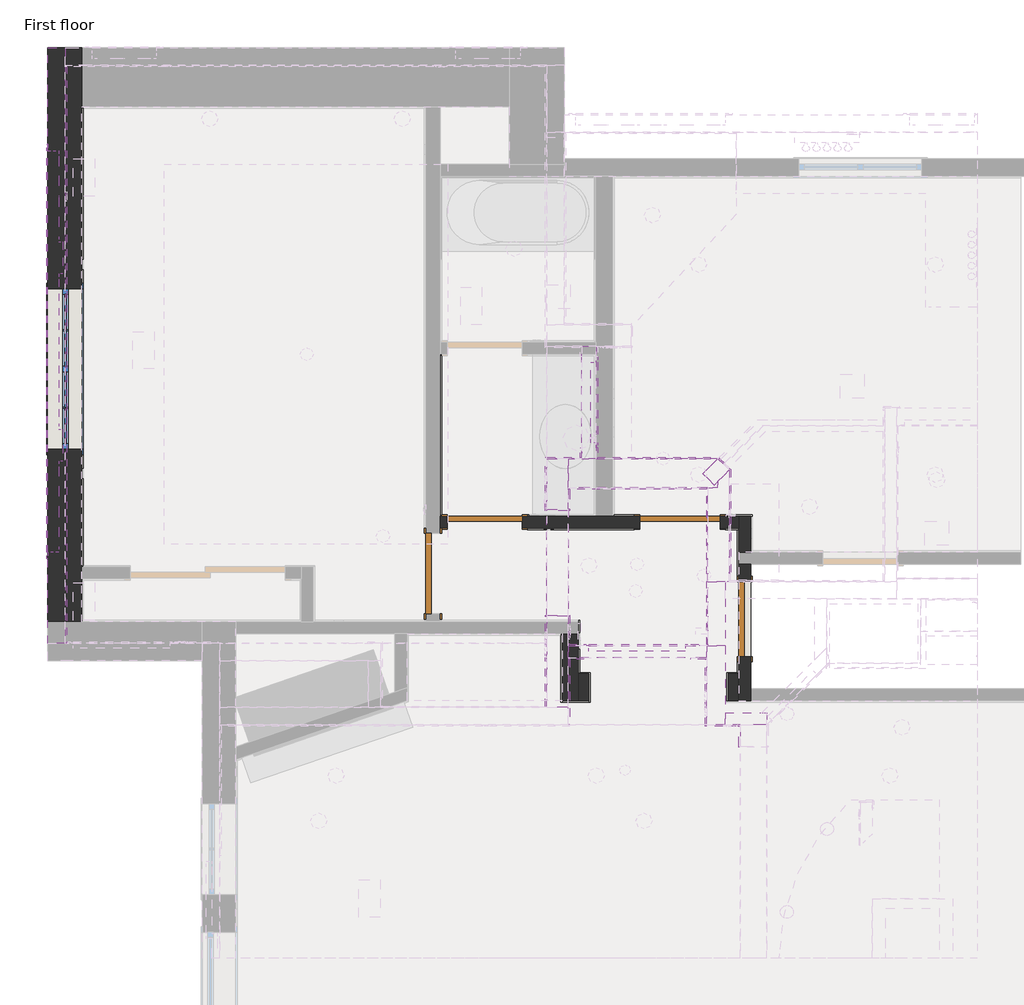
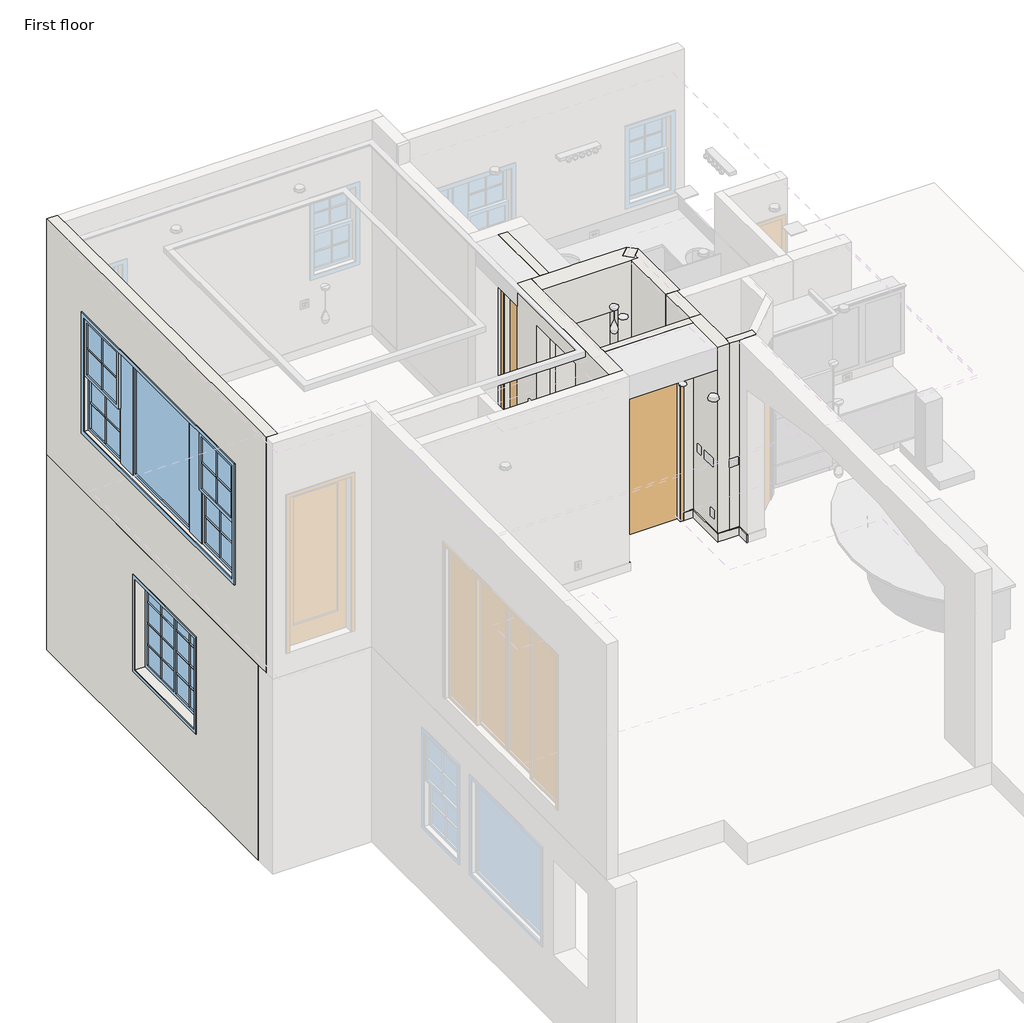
# One storey, part 2 of 14: 56 walls, 6 doors, 2 windows.
"""IFC4 building model written with IfcOpenShell, lengths in millimetres."""

from ifc_helpers import new_model, si_unit, frame, origin, origin_with_axes, place, context, project, spatial, polyline, outline, extrude, faceted_brep, transform, mapped, element, save
from components import door_ed5eb43b, door_212f846a, door_c0065fe1, door_7242d4bd, door_72c844fb, window_cb41b9cf, window_30bd35c0

model = new_model("IFC4")

# Units and contexts
model_context = context("Model", 3, world=origin())
ifc_project = project(units=[si_unit("LENGTHUNIT", "METRE", prefix="MILLI")], contexts=[model_context])

# Site, building, storey
site = spatial("IfcSite", under=ifc_project)
building = spatial("IfcBuilding", under=site)
storey = spatial("IfcBuildingStorey", under=building, Name="First floor", Elevation=0.0)

# Doors
placement = place(None, origin())
door_shape = door_ed5eb43b(model_context)
element("IfcDoor", 1, ObjectType="Door_1 : 2'-4\" X 8'-2\"", at=placement, inside=storey, context=model_context, shape_type="MappedRepresentation", body=[
    mapped(door_shape, transform((-44.45, 9855.2, 0.0), x_axis=(0.0, -1.0, 0.0), y_axis=(1.0, 0.0, 0.0), z_axis=(0.0, 0.0, 1.0))),
])
element("IfcDoor", 2, ObjectType="Door_1 : 2'-4\" X 8'-2\"", at=placement, inside=storey, context=model_context, shape_type="MappedRepresentation", body=[
    mapped(door_shape, transform((-2514.6, 10775.95, 0.0), x_axis=(-1.0, 0.0, 0.0), y_axis=(0.0, -1.0, 0.0), z_axis=(0.0, 0.0, 1.0))),
])
door_2_shape = door_212f846a(model_context)
element("IfcDoor", 3, ObjectType="Door_1 : 2'-6\" X 8'-0\"", at=placement, inside=storey, context=model_context, shape_type="MappedRepresentation", body=[
    mapped(door_2_shape, transform((-1524.0, 11912.4947939, 3251.2), x_axis=(0.0, -1.0, 0.0), y_axis=(1.0, 0.0, 0.0), z_axis=(0.0, 0.0, 1.0))),
])
door_3_shape = door_c0065fe1(model_context)
element("IfcDoor", 4, ObjectType="Door_1 : 2'-6\" X 8'-2\"", at=placement, inside=storey, context=model_context, shape_type="MappedRepresentation", body=[
    mapped(door_3_shape, transform((-660.4, 10775.95, 0.0), x_axis=(-1.0, 0.0, 0.0), y_axis=(0.0, -1.0, 0.0), z_axis=(0.0, 0.0, 1.0))),
])
door_4_shape = door_7242d4bd(model_context)
element("IfcDoor", 5, ObjectType="Door_1 : 2'-6\" X 8'-2\"", at=placement, inside=storey, context=model_context, shape_type="MappedRepresentation", body=[
    mapped(door_4_shape, transform((-3003.55, 10287.0, 0.0), x_axis=(0.0, -1.0, 0.0), y_axis=(1.0, 0.0, 0.0), z_axis=(0.0, 0.0, 1.0))),
])
door_5_shape = door_72c844fb(model_context)
element("IfcDoor", 6, ObjectType="Door_1 : 3'-0\" X 8'-0\"", at=placement, inside=storey, context=model_context, shape_type="MappedRepresentation", body=[
    mapped(door_5_shape, transform((-1066.8, 9544.05, 3251.2), x_axis=(1.0, 0.0, 0.0), y_axis=(0.0, 1.0, 0.0), z_axis=(0.0, 0.0, 1.0))),
])

# Walls
element("IfcWall", 7, ObjectType="Wall Border_T1", at=placement, inside=storey, context=model_context, shape_type="Brep", body=[
    faceted_brep([(-1790.7, 9715.5, 0.0), (-1790.7, 9702.8, 0.0), (-1790.7, 9067.8, 0.0), (-1790.7, 9067.8, 127.0), (-1790.7, 9702.8, 127.0), (-1790.7, 9715.5, 127.0), (-1778.0, 9715.5, 0.0), (-1778.0, 9715.5, 127.0), (-1778.0, 9080.5, 127.0), (-1778.0, 9067.8, 127.0), (-1778.0, 9067.8, 0.0), (-1778.0, 9080.5, 0.0)], [[[0, 1, 2, 3, 4, 5]], [[6, 7, 8, 9, 10, 11]], [[2, 1, 0, 6, 11, 10]], [[3, 2, 10, 9]], [[5, 4, 3, 9, 8, 7]], [[0, 5, 7, 6]]]),
])
element("IfcWall", 8, ObjectType="Wall Border_T1", at=placement, inside=storey, context=model_context, shape_type="SweptSolid", body=[
    extrude(outline(polyline([(-1524.0, 9067.8), (-1778.0, 9067.8), (-1778.0, 9080.5), (-1524.0, 9080.5), (-1524.0, 9067.8)])), origin_with_axes(), (0.0, 0.0, 1.0), 127.0),
])
element("IfcWall", 9, ObjectType="Wall Border_T1", at=placement, inside=storey, context=model_context, shape_type="Brep", body=[
    faceted_brep([(-1511.3, 9067.8, 0.0), (-1511.3, 9347.2, 0.0), (-1511.3, 9347.2, 127.0), (-1511.3, 9067.8, 127.0), (-1524.0, 9067.8, 0.0), (-1524.0, 9067.8, 127.0), (-1524.0, 9080.5, 127.0), (-1524.0, 9334.5, 127.0), (-1524.0, 9347.2, 127.0), (-1524.0, 9347.2, 0.0), (-1524.0, 9334.5, 0.0), (-1524.0, 9080.5, 0.0)], [[[0, 1, 2, 3]], [[4, 5, 6, 7, 8, 9, 10, 11]], [[1, 0, 4, 11, 10, 9]], [[2, 1, 9, 8]], [[3, 2, 8, 7, 6, 5]], [[0, 3, 5, 4]]]),
])
element("IfcWall", 10, ObjectType="Wall Border_T1", at=placement, inside=storey, context=model_context, shape_type="SweptSolid", body=[
    extrude(outline(polyline([(-1612.9, 9347.2), (-1524.0, 9347.2), (-1524.0, 9334.5), (-1612.9, 9334.5), (-1612.9, 9347.2)])), origin_with_axes(), (0.0, 0.0, 1.0), 127.0),
])
element("IfcWall", 11, ObjectType="Wall Border_T1", at=placement, inside=storey, context=model_context, shape_type="Brep", body=[
    faceted_brep([(-1612.9, 9334.5, 0.0), (-1612.9, 9347.2, 0.0), (-1612.9, 9842.5, 0.0), (-1612.9, 9842.5, 127.0), (-1612.9, 9347.2, 127.0), (-1612.9, 9334.5, 127.0), (-1625.6, 9334.5, 0.0), (-1625.6, 9334.5, 127.0), (-1625.6, 9829.8, 127.0), (-1625.6, 9842.5, 127.0), (-1625.6, 9842.5, 0.0), (-1625.6, 9829.8, 0.0)], [[[0, 1, 2, 3, 4, 5]], [[6, 7, 8, 9, 10, 11]], [[2, 1, 0, 6, 11, 10]], [[3, 2, 10, 9]], [[5, 4, 3, 9, 8, 7]], [[0, 5, 7, 6]]]),
])
element("IfcWall", 12, ObjectType="Wall Border_T1", at=placement, inside=storey, context=model_context, shape_type="SweptSolid", body=[
    extrude(outline(polyline([(-114.3, 9347.2), (-114.3, 9448.8), (-101.6, 9448.8), (-101.6, 9347.2), (-114.3, 9347.2)])), origin_with_axes(), (0.0, 0.0, 1.0), 127.0),
])
element("IfcWall", 13, ObjectType="Wall Border_T1", at=placement, inside=storey, context=model_context, shape_type="Brep", body=[
    faceted_brep([(-101.6, 9347.2, 0.0), (-114.3, 9347.2, 0.0), (-203.2, 9347.2, 0.0), (-203.2, 9347.2, 127.0), (-114.3, 9347.2, 127.0), (-101.6, 9347.2, 127.0), (-101.6, 9334.5, 0.0), (-101.6, 9334.5, 127.0), (-203.2, 9334.5, 127.0), (-203.2, 9334.5, 0.0)], [[[0, 1, 2, 3, 4, 5]], [[6, 7, 8, 9]], [[2, 1, 0, 6, 9]], [[3, 2, 9, 8]], [[5, 4, 3, 8, 7]], [[0, 5, 7, 6]]]),
])
element("IfcWall", 14, ObjectType="Wall Border_T1", at=placement, inside=storey, context=model_context, shape_type="Brep", body=[
    faceted_brep([(-215.9, 9347.2, 0.0), (-215.9, 9080.5, 0.0), (-215.9, 9080.5, 127.0), (-215.9, 9347.2, 127.0), (-203.2, 9347.2, 0.0), (-203.2, 9347.2, 127.0), (-203.2, 9334.5, 127.0), (-203.2, 9080.5, 127.0), (-203.2, 9080.5, 0.0), (-203.2, 9334.5, 0.0)], [[[0, 1, 2, 3]], [[4, 5, 6, 7, 8, 9]], [[1, 0, 4, 9, 8]], [[2, 1, 8, 7]], [[3, 2, 7, 6, 5]], [[0, 3, 5, 4]]]),
])
element("IfcWall", 15, ObjectType="Wall Border_T1", at=placement, inside=storey, context=model_context, shape_type="Brep", body=[
    faceted_brep([(-6324.6, 10350.5, 127.0), (-6324.6, 10350.5, 0.0), (-6324.6, 10363.2, 0.0), (-6324.6, 14706.6, 0.0), (-6324.6, 14706.6, 127.0), (-6324.6, 10363.2, 127.0), (-6337.3, 10350.5, 0.0), (-6337.3, 10350.5, 127.0), (-6337.3, 14706.6, 127.0), (-6337.3, 14706.6, 0.0)], [[[0, 1, 2, 3, 4, 5]], [[6, 7, 8, 9]], [[1, 6, 9, 3, 2]], [[7, 0, 5, 4, 8]], [[1, 0, 7, 6]], [[4, 3, 9, 8]]]),
])
element("IfcWall", 16, ObjectType="Wall Border_T1", at=placement, inside=storey, context=model_context, shape_type="SweptSolid", body=[
    extrude(outline(polyline([(-2025.65, 10833.1), (-2025.65, 12369.8), (-2012.95, 12369.8), (-2012.95, 10833.1), (-2025.65, 10833.1)])), origin_with_axes(), (0.0, 0.0, 1.0), 127.0),
])
element("IfcWall", 17, ObjectType="Wall Border_T1", at=placement, inside=storey, context=model_context, shape_type="SweptSolid", body=[
    extrude(outline(polyline([(-2108.2, 10845.8), (-2025.65, 10845.8), (-2025.65, 10833.1), (-2108.2, 10833.1), (-2108.2, 10845.8)])), origin_with_axes(), (0.0, 0.0, 1.0), 127.0),
])
element("IfcWall", 18, ObjectType="Wall Border_T1", at=placement, inside=storey, context=model_context, shape_type="SweptSolid", body=[
    extrude(outline(polyline([(-2933.7, 10833.1), (-2933.7, 12369.8), (-2921.0, 12369.8), (-2921.0, 10833.1), (-2933.7, 10833.1)])), origin_with_axes(), (0.0, 0.0, 1.0), 127.0),
])
element("IfcWall", 19, ObjectType="Wall Border_T1", at=placement, inside=storey, context=model_context, shape_type="Brep", body=[
    faceted_brep([(25.4, 10845.8, 0.0), (-228.6, 10845.8, 0.0), (-228.6, 10845.8, 127.0), (25.4, 10845.8, 127.0), (25.4, 10833.1, 0.0), (25.4, 10833.1, 127.0), (12.7, 10833.1, 127.0), (-228.6, 10833.1, 127.0), (-228.6, 10833.1, 0.0), (12.7, 10833.1, 0.0)], [[[0, 1, 2, 3]], [[4, 5, 6, 7, 8, 9]], [[1, 0, 4, 9, 8]], [[2, 1, 8, 7]], [[3, 2, 7, 6, 5]], [[0, 3, 5, 4]]]),
])
element("IfcWall", 20, ObjectType="Wall Border_T1", at=placement, inside=storey, context=model_context, shape_type="SweptSolid", body=[
    extrude(outline(polyline([(-1092.2, 10845.8), (-1092.2, 10833.1), (-1282.7, 10833.1), (-1282.7, 10845.8), (-1092.2, 10845.8)])), origin_with_axes(), (0.0, 0.0, 1.0), 127.0),
])
element("IfcWall", 21, ObjectType="Wall Border_T1", at=placement, inside=storey, context=model_context, shape_type="SweptSolid", body=[
    extrude(outline(polyline([(-1092.2, 10706.1), (-2108.2, 10706.1), (-2108.2, 10718.8), (-1092.2, 10718.8), (-1092.2, 10706.1)])), origin_with_axes(), (0.0, 0.0, 1.0), 127.0),
])
element("IfcWall", 22, ObjectType="Wall Border_T1", at=placement, inside=storey, context=model_context, shape_type="Brep", body=[
    faceted_brep([(-228.6, 10706.1, 0.0), (-114.3, 10706.1, 0.0), (-101.6, 10706.1, 0.0), (-101.6, 10706.1, 127.0), (-114.3, 10706.1, 127.0), (-228.6, 10706.1, 127.0), (-228.6, 10718.8, 0.0), (-228.6, 10718.8, 127.0), (-101.6, 10718.8, 127.0), (-101.6, 10718.8, 0.0)], [[[0, 1, 2, 3, 4, 5]], [[6, 7, 8, 9]], [[2, 1, 0, 6, 9]], [[5, 4, 3, 8, 7]], [[0, 5, 7, 6]], [[3, 2, 9, 8]]]),
])
element("IfcWall", 23, ObjectType="Wall Border_T1", at=placement, inside=storey, context=model_context, shape_type="SweptSolid", body=[
    extrude(outline(polyline([(-114.3, 10261.6), (-114.3, 10706.1), (-101.6, 10706.1), (-101.6, 10261.6), (-114.3, 10261.6)])), origin_with_axes(), (0.0, 0.0, 1.0), 127.0),
])
element("IfcWall", 24, ObjectType="Wall Border_T1", at=placement, inside=storey, context=model_context, shape_type="Brep", body=[
    faceted_brep([(-6496.05, 15100.3, 3251.2), (-6496.05, 9626.6, 3251.2), (-6496.05, 9626.6, 3378.2), (-6496.05, 15100.3, 3378.2), (-6483.35, 15100.3, 3251.2), (-6483.35, 15100.3, 3378.2), (-6483.35, 9639.3, 3378.2), (-6483.35, 9626.6, 3378.2), (-6483.35, 9626.6, 3251.2), (-6483.35, 9639.3, 3251.2)], [[[0, 1, 2, 3]], [[4, 5, 6, 7, 8, 9]], [[1, 0, 4, 9, 8]], [[3, 2, 7, 6, 5]], [[0, 3, 5, 4]], [[2, 1, 8, 7]]]),
])
element("IfcWall", 25, ObjectType="Wall Border_T1", at=placement, inside=storey, context=model_context, shape_type="Brep", body=[
    faceted_brep([(-1708.15, 9893.3, 3251.2), (-1936.75, 9893.3, 3251.2), (-1936.75, 9893.3, 3378.2), (-1708.15, 9893.3, 3378.2), (-1708.15, 9880.6, 3251.2), (-1708.15, 9880.6, 3378.2), (-1720.85, 9880.6, 3378.2), (-1924.05, 9880.6, 3378.2), (-1936.75, 9880.6, 3378.2), (-1936.75, 9880.6, 3251.2), (-1924.05, 9880.6, 3251.2), (-1720.85, 9880.6, 3251.2)], [[[0, 1, 2, 3]], [[4, 5, 6, 7, 8, 9, 10, 11]], [[1, 0, 4, 11, 10, 9]], [[3, 2, 8, 7, 6, 5]], [[2, 1, 9, 8]], [[0, 3, 5, 4]]]),
])
element("IfcWall", 26, ObjectType="Wall Border_T1", at=placement, inside=storey, context=model_context, shape_type="Brep", body=[
    faceted_brep([(-1936.75, 9880.6, 3251.2), (-1936.75, 9029.7, 3251.2), (-1936.75, 9017.0, 3251.2), (-1936.75, 9017.0, 3378.2), (-1936.75, 9029.7, 3378.2), (-1936.75, 9880.6, 3378.2), (-1924.05, 9880.6, 3251.2), (-1924.05, 9880.6, 3378.2), (-1924.05, 9017.0, 3378.2), (-1924.05, 9017.0, 3251.2)], [[[0, 1, 2, 3, 4, 5]], [[6, 7, 8, 9]], [[2, 1, 0, 6, 9]], [[5, 4, 3, 8, 7]], [[0, 5, 7, 6]], [[3, 2, 9, 8]]]),
])
element("IfcWall", 27, ObjectType="Wall Border_T1", at=placement, inside=storey, context=model_context, shape_type="Brep", body=[
    faceted_brep([(-1574.8, 9613.9, 3251.2), (-1708.15, 9613.9, 3251.2), (-1720.85, 9613.9, 3251.2), (-1720.85, 9613.9, 3378.2), (-1708.15, 9613.9, 3378.2), (-1574.8, 9613.9, 3378.2), (-1574.8, 9601.2, 3251.2), (-1574.8, 9601.2, 3378.2), (-1720.85, 9601.2, 3378.2), (-1720.85, 9601.2, 3251.2)], [[[0, 1, 2, 3, 4, 5]], [[6, 7, 8, 9]], [[2, 1, 0, 6, 9]], [[5, 4, 3, 8, 7]], [[0, 5, 7, 6]], [[3, 2, 9, 8]]]),
])
element("IfcWall", 28, ObjectType="Wall Border_T1", at=placement, inside=storey, context=model_context, shape_type="SweptSolid", body=[
    extrude(outline(polyline([(-1708.15, 9880.6), (-1708.15, 9613.9), (-1720.85, 9613.9), (-1720.85, 9880.6), (-1708.15, 9880.6)])), frame((0.0, 0.0, 3251.2), z_axis=(0.0, 0.0, 1.0), x_axis=(1.0, 0.0, 0.0)), (0.0, 0.0, 1.0), 127.0),
])
element("IfcWall", 29, ObjectType="Wall Border_T1", at=placement, inside=storey, context=model_context, shape_type="Brep", body=[
    faceted_brep([(-558.8, 9601.2, 3251.2), (-393.7, 9601.2, 3251.2), (-393.7, 9601.2, 3378.2), (-558.8, 9601.2, 3378.2), (-558.8, 9613.9, 3251.2), (-558.8, 9613.9, 3378.2), (-406.4, 9613.9, 3378.2), (-393.7, 9613.9, 3378.2), (-393.7, 9613.9, 3251.2), (-406.4, 9613.9, 3251.2)], [[[0, 1, 2, 3]], [[4, 5, 6, 7, 8, 9]], [[1, 0, 4, 9, 8]], [[3, 2, 7, 6, 5]], [[0, 3, 5, 4]], [[2, 1, 8, 7]]]),
])
element("IfcWall", 30, ObjectType="Wall Border_T1", at=placement, inside=storey, context=model_context, shape_type="Brep", body=[
    faceted_brep([(-393.7, 9613.9, 3251.2), (-393.7, 11099.8, 3251.2), (-393.7, 11099.8, 3378.2), (-393.7, 9613.9, 3378.2), (-406.4, 9613.9, 3251.2), (-406.4, 9613.9, 3378.2), (-406.4, 11087.1, 3378.2), (-406.4, 11099.8, 3378.2), (-406.4, 11099.8, 3251.2), (-406.4, 11087.1, 3251.2)], [[[0, 1, 2, 3]], [[4, 5, 6, 7, 8, 9]], [[1, 0, 4, 9, 8]], [[3, 2, 7, 6, 5]], [[0, 3, 5, 4]], [[2, 1, 8, 7]]]),
])
element("IfcWall", 31, ObjectType="Wall Border_T1", at=placement, inside=storey, context=model_context, shape_type="Brep", body=[
    faceted_brep([(-406.4, 11099.8, 3251.2), (-1720.85, 11099.8, 3251.2), (-1720.85, 11099.8, 3378.2), (-406.4, 11099.8, 3378.2), (-406.4, 11087.1, 3251.2), (-406.4, 11087.1, 3378.2), (-1708.15, 11087.1, 3378.2), (-1720.85, 11087.1, 3378.2), (-1720.85, 11087.1, 3251.2), (-1708.15, 11087.1, 3251.2)], [[[0, 1, 2, 3]], [[4, 5, 6, 7, 8, 9]], [[1, 0, 4, 9, 8]], [[3, 2, 7, 6, 5]], [[0, 3, 5, 4]], [[2, 1, 8, 7]]]),
])
element("IfcWall", 32, ObjectType="Wall Border_T1", at=placement, inside=storey, context=model_context, shape_type="Brep", body=[
    faceted_brep([(-1936.75, 11391.9, 3251.2), (-1936.75, 10883.9, 3251.2), (-1936.75, 10883.9, 3378.2), (-1936.75, 11391.9, 3378.2), (-1924.05, 11391.9, 3251.2), (-1924.05, 11391.9, 3378.2), (-1924.05, 11379.2, 3378.2), (-1924.05, 10896.6, 3378.2), (-1924.05, 10883.9, 3378.2), (-1924.05, 10883.9, 3251.2), (-1924.05, 10896.6, 3251.2), (-1924.05, 11379.2, 3251.2)], [[[0, 1, 2, 3]], [[4, 5, 6, 7, 8, 9, 10, 11]], [[1, 0, 4, 11, 10, 9]], [[3, 2, 8, 7, 6, 5]], [[2, 1, 9, 8]], [[0, 3, 5, 4]]]),
])
element("IfcWall", 33, ObjectType="Wall Border_T1", at=placement, inside=storey, context=model_context, shape_type="Brep", body=[
    faceted_brep([(-1924.05, 10883.9, 3251.2), (-1708.15, 10883.9, 3251.2), (-1708.15, 10883.9, 3378.2), (-1924.05, 10883.9, 3378.2), (-1924.05, 10896.6, 3251.2), (-1924.05, 10896.6, 3378.2), (-1720.85, 10896.6, 3378.2), (-1708.15, 10896.6, 3378.2), (-1708.15, 10896.6, 3251.2), (-1720.85, 10896.6, 3251.2)], [[[0, 1, 2, 3]], [[4, 5, 6, 7, 8, 9]], [[1, 0, 4, 9, 8]], [[3, 2, 7, 6, 5]], [[0, 3, 5, 4]], [[2, 1, 8, 7]]]),
])
element("IfcWall", 34, ObjectType="Wall Border_T1", at=placement, inside=storey, context=model_context, shape_type="SweptSolid", body=[
    extrude(outline(polyline([(-1708.15, 11087.1), (-1708.15, 10896.6), (-1720.85, 10896.6), (-1720.85, 11087.1), (-1708.15, 11087.1)])), frame((0.0, 0.0, 3251.2), z_axis=(0.0, 0.0, 1.0), x_axis=(1.0, 0.0, 0.0)), (0.0, 0.0, 1.0), 127.0),
])
element("IfcWall", 35, ObjectType="Wall Border_T1", at=placement, inside=storey, context=model_context, shape_type="Brep", body=[
    faceted_brep([(-1606.55, 11480.6947939, 3251.2), (-1606.55, 11391.9, 3251.2), (-1606.55, 11379.2, 3251.2), (-1606.55, 11379.2, 3378.2), (-1606.55, 11391.9, 3378.2), (-1606.55, 11480.6947939, 3378.2), (-1593.85, 11480.6947939, 3251.2), (-1593.85, 11480.6947939, 3378.2), (-1593.85, 11379.2, 3378.2), (-1593.85, 11379.2, 3251.2)], [[[0, 1, 2, 3, 4, 5]], [[6, 7, 8, 9]], [[2, 1, 0, 6, 9]], [[5, 4, 3, 8, 7]], [[0, 5, 7, 6]], [[3, 2, 9, 8]]]),
])
element("IfcWall", 36, ObjectType="Wall Border_T1", at=placement, inside=storey, context=model_context, shape_type="SweptSolid", body=[
    extrude(outline(polyline([(-1924.05, 11391.9), (-1606.55, 11391.9), (-1606.55, 11379.2), (-1924.05, 11379.2), (-1924.05, 11391.9)])), frame((0.0, 0.0, 3251.2), z_axis=(0.0, 0.0, 1.0), x_axis=(1.0, 0.0, 0.0)), (0.0, 0.0, 1.0), 127.0),
])
element("IfcWall", 37, ObjectType="Wall Border_T1", at=placement, inside=storey, context=model_context, shape_type="Brep", body=[
    faceted_brep([(-1454.15, 11480.6947939, 3251.2), (-1454.15, 11379.2, 3251.2), (-1454.15, 11379.2, 3378.2), (-1454.15, 11480.6947939, 3378.2), (-1441.45, 11480.6947939, 3251.2), (-1441.45, 11480.6947939, 3378.2), (-1441.45, 11391.9, 3378.2), (-1441.45, 11379.2, 3378.2), (-1441.45, 11379.2, 3251.2), (-1441.45, 11391.9, 3251.2)], [[[0, 1, 2, 3]], [[4, 5, 6, 7, 8, 9]], [[1, 0, 4, 9, 8]], [[3, 2, 7, 6, 5]], [[0, 3, 5, 4]], [[2, 1, 8, 7]]]),
])
element("IfcWall", 38, ObjectType="Wall Border_T1", at=placement, inside=storey, context=model_context, shape_type="Brep", body=[
    faceted_brep([(-1441.45, 11379.2, 3251.2), (-298.45, 11379.2, 3251.2), (-280.4894878, 11379.2, 3251.2), (-280.4894878, 11379.2, 3378.2), (-1441.45, 11379.2, 3378.2), (-1441.45, 11391.9, 3251.2), (-1441.45, 11391.9, 3378.2), (-293.1894878, 11391.9, 3378.2), (-293.1894878, 11391.9, 3251.2)], [[[0, 1, 2, 3, 4]], [[5, 6, 7, 8]], [[2, 1, 0, 5, 8]], [[4, 3, 7, 6]], [[0, 4, 6, 5]], [[3, 2, 8, 7]]]),
])
element("IfcWall", 39, ObjectType="Wall Border_T1", at=placement, inside=storey, context=model_context, shape_type="Brep", body=[
    faceted_brep([(-177.8, 10223.5, 3251.2), (-177.8, 11276.5105122, 3251.2), (-177.8, 11276.5105122, 5715.0), (-177.8, 10223.5, 5715.0), (-190.5, 10223.5, 3251.2), (-190.5, 10223.5, 5715.0), (-190.5, 11271.25, 5715.0), (-190.5, 11289.2105122, 5715.0), (-190.5, 11289.2105122, 3251.2), (-190.5, 11271.25, 3251.2)], [[[0, 1, 2, 3]], [[4, 5, 6, 7, 8, 9]], [[1, 0, 4, 9, 8]], [[3, 2, 7, 6, 5]], [[0, 3, 5, 4]], [[2, 1, 8, 7]]]),
])
element("IfcWall", 40, ObjectType="Wall Border_T1", at=placement, inside=storey, context=model_context, shape_type="Brep", body=[
    faceted_brep([(-190.5, 11289.2105122, 3251.2), (-280.4894878, 11379.2, 3251.2), (-280.4894878, 11379.2, 3378.2), (-280.4894878, 11379.2, 5715.0), (-190.5, 11289.2105122, 5715.0), (-190.5, 11271.25, 3251.2), (-190.5, 11271.25, 5715.0), (-298.45, 11379.2, 5715.0), (-298.45, 11379.2, 3251.2)], [[[0, 1, 2, 3, 4]], [[5, 6, 7, 8]], [[1, 0, 5, 8]], [[4, 3, 7, 6]], [[0, 4, 6, 5]], [[3, 2, 1, 8, 7]]]),
])
element("IfcWall", 41, ObjectType="Wall Border_T1", at=placement, inside=storey, context=model_context, shape_type="Brep", body=[
    faceted_brep([(-1708.15, 8851.9, 3251.2), (-1708.15, 9474.2, 3251.2), (-1708.15, 9486.9, 3251.2), (-1708.15, 9486.9, 3378.2), (-1708.15, 9474.2, 3378.2), (-1708.15, 8851.9, 3378.2), (-1720.85, 8851.9, 3251.2), (-1720.85, 8851.9, 3378.2), (-1720.85, 9486.9, 3378.2), (-1720.85, 9486.9, 3251.2)], [[[0, 1, 2, 3, 4, 5]], [[6, 7, 8, 9]], [[2, 1, 0, 6, 9]], [[5, 4, 3, 8, 7]], [[0, 5, 7, 6]], [[3, 2, 9, 8]]]),
])
element("IfcWall", 42, ObjectType="Wall Border_T1", at=placement, inside=storey, context=model_context, shape_type="SweptSolid", body=[
    extrude(outline(polyline([(-1574.8, 9474.2), (-1708.15, 9474.2), (-1708.15, 9486.9), (-1574.8, 9486.9), (-1574.8, 9474.2)])), frame((0.0, 0.0, 3251.2), z_axis=(0.0, 0.0, 1.0), x_axis=(1.0, 0.0, 0.0)), (0.0, 0.0, 1.0), 127.0),
])
element("IfcWall", 43, ObjectType="Wall Border_T1", at=placement, inside=storey, context=model_context, shape_type="Brep", body=[
    faceted_brep([(-558.8, 9474.2, 3251.2), (-419.1, 9474.2, 3251.2), (-406.4, 9474.2, 3251.2), (-406.4, 9474.2, 3378.2), (-419.1, 9474.2, 3378.2), (-558.8, 9474.2, 3378.2), (-558.8, 9486.9, 3251.2), (-558.8, 9486.9, 3378.2), (-406.4, 9486.9, 3378.2), (-406.4, 9486.9, 3251.2)], [[[0, 1, 2, 3, 4, 5]], [[6, 7, 8, 9]], [[2, 1, 0, 6, 9]], [[5, 4, 3, 8, 7]], [[0, 5, 7, 6]], [[3, 2, 9, 8]]]),
])
element("IfcWall", 44, ObjectType="Wall Border_T1", at=placement, inside=storey, context=model_context, shape_type="Brep", body=[
    faceted_brep([(-419.1, 9474.2, 3251.2), (-419.1, 8839.2, 3251.2), (-419.1, 8839.2, 3378.2), (-419.1, 9474.2, 3378.2), (-406.4, 9474.2, 3251.2), (-406.4, 9474.2, 3378.2), (-406.4, 8851.9, 3378.2), (-406.4, 8839.2, 3378.2), (-406.4, 8839.2, 3251.2), (-406.4, 8851.9, 3251.2)], [[[0, 1, 2, 3]], [[4, 5, 6, 7, 8, 9]], [[1, 0, 4, 9, 8]], [[3, 2, 7, 6, 5]], [[0, 3, 5, 4]], [[2, 1, 8, 7]]]),
])
element("IfcWall", 45, ObjectType="Wall Border_T1", at=placement, inside=storey, context=model_context, shape_type="Brep", body=[
    faceted_brep([(-406.4, 8839.2, 3251.2), (-101.6, 8839.2, 3251.2), (-88.9, 8839.2, 3251.2), (-88.9, 8839.2, 3378.2), (-101.6, 8839.2, 3378.2), (-406.4, 8839.2, 3378.2), (-406.4, 8851.9, 3251.2), (-406.4, 8851.9, 3378.2), (-88.9, 8851.9, 3378.2), (-88.9, 8851.9, 3251.2)], [[[0, 1, 2, 3, 4, 5]], [[6, 7, 8, 9]], [[2, 1, 0, 6, 9]], [[5, 4, 3, 8, 7]], [[0, 5, 7, 6]], [[3, 2, 9, 8]]]),
])
element("IfcWall", 46, ObjectType="Wall Border_T1", at=placement, inside=storey, context=model_context, shape_type="Brep", body=[
    faceted_brep([(-101.6, 8839.2, 3251.2), (-101.6, 8636.0, 3251.2), (-101.6, 8636.0, 3378.2), (-101.6, 8839.2, 3378.2), (-88.9, 8839.2, 3251.2), (-88.9, 8839.2, 3378.2), (-88.9, 8648.7, 3378.2), (-88.9, 8636.0, 3378.2), (-88.9, 8636.0, 3251.2), (-88.9, 8648.7, 3251.2)], [[[0, 1, 2, 3]], [[4, 5, 6, 7, 8, 9]], [[1, 0, 4, 9, 8]], [[3, 2, 7, 6, 5]], [[0, 3, 5, 4]], [[2, 1, 8, 7]]]),
])
element("IfcWall", 47, ObjectType="Wall_1' 3/4\"", at=placement, inside=storey, context=model_context, shape_type="Brep", body=[
    faceted_brep([(-6337.3, 9829.8, -152.4), (-6337.3, 14719.3, -152.4), (-6337.3, 15278.1, -152.4), (-6337.3, 15278.1, 2908.3), (-6337.3, 14719.3, 2908.3), (-6337.3, 9829.8, 2908.3), (-6337.3, 11468.1, 2336.8), (-6337.3, 12992.1, 2336.8), (-6337.3, 12992.1, 914.4), (-6337.3, 11468.1, 914.4), (-6661.15, 9829.8, -152.4), (-6661.15, 9829.8, 2908.3), (-6661.15, 15278.1, 2908.3), (-6661.15, 15278.1, -152.4), (-6661.15, 11468.1, 2336.8), (-6661.15, 11468.1, 914.4), (-6661.15, 12992.1, 914.4), (-6661.15, 12992.1, 2336.8)], [[[0, 1, 2, 3, 4, 5], [6, 7, 8, 9]], [[10, 11, 12, 13], [14, 15, 16, 17]], [[2, 1, 0, 10, 13]], [[5, 4, 3, 12, 11]], [[0, 5, 11, 10]], [[3, 2, 13, 12]], [[15, 14, 6, 9]], [[16, 15, 9, 8]], [[17, 16, 8, 7]], [[14, 17, 7, 6]]]),
])
element("IfcWall", 48, ObjectType="Wall_10\"", at=placement, inside=storey, context=model_context, shape_type="SweptSolid", body=[
    extrude(outline(polyline([(2565.4, -101.6), (2565.4, -1625.6), (0.0, -1625.6), (0.0, -1524.0), (2387.6, -1524.0), (2387.6, -203.2), (0.0, -203.2), (0.0, -101.6), (2565.4, -101.6)])), frame((0.0, 9080.5, 0.0), z_axis=(0.0, 1.0, 0.0), x_axis=(0.0, 0.0, 1.0)), (0.0, 0.0, 1.0), 254.0),
])
element("IfcWall", 49, ObjectType="Wall_11\"", at=placement, inside=storey, context=model_context, shape_type="Brep", body=[
    faceted_brep([(-1720.85, 11099.8, 3251.2), (-393.7, 11099.8, 3251.2), (-298.45, 11099.8, 3251.2), (-298.45, 11099.8, 6299.2), (-393.7, 11099.8, 6299.2), (-1720.85, 11099.8, 6299.2), (-1517.65, 11099.8, 5588.0), (-596.9, 11099.8, 5588.0), (-596.9, 11099.8, 4114.8), (-1517.65, 11099.8, 4114.8), (-298.45, 11379.2, 3251.2), (-1454.15, 11379.2, 3251.2), (-1593.85, 11379.2, 3251.2), (-1720.85, 11379.2, 3251.2), (-1720.85, 11379.2, 6299.2), (-1593.85, 11379.2, 6299.2), (-1454.15, 11379.2, 6299.2), (-1123.95, 11379.2, 6299.2), (-298.45, 11379.2, 6299.2), (-442.1340979, 11235.5159021, 3251.2), (-334.1840979, 11127.5659021, 3251.2), (-298.45, 11163.3, 3251.2), (-298.45, 11163.3, 6299.2), (-334.1840979, 11127.5659021, 6299.2), (-442.1340979, 11235.5159021, 6299.2), (-1517.65, 11303.0, 5588.0), (-1517.65, 11303.0, 4114.8), (-596.9, 11303.0, 4114.8), (-596.9, 11303.0, 5588.0)], [[[0, 1, 2, 3, 4, 5], [6, 7, 8, 9]], [[10, 11, 12, 13, 14, 15, 16, 17, 18]], [[2, 1, 0, 13, 12, 11, 10, 19, 20, 21]], [[3, 2, 21, 22]], [[5, 4, 3, 22, 23, 24, 18, 17, 16, 15, 14]], [[0, 5, 14, 13]], [[23, 20, 19, 24]], [[20, 23, 22, 21]], [[24, 19, 10, 18]], [[25, 26, 27, 28]], [[25, 28, 7, 6]], [[28, 27, 8, 7]], [[27, 26, 9, 8]], [[26, 25, 6, 9]]]),
])
element("IfcWall", 50, ObjectType="Wall_4.5\"", at=placement, inside=storey, context=model_context, shape_type="Brep", body=[
    faceted_brep([(-228.6, 8851.9, 3251.2), (-88.9, 8851.9, 3251.2), (165.1, 8851.9, 3251.2), (165.1, 8851.9, 6299.2), (-88.9, 8851.9, 6299.2), (-228.6, 8851.9, 6299.2), (-228.6, 8966.2, 6299.2), (117.7553898, 8966.2, 6299.2), (165.1, 8966.2, 6299.2), (165.1, 8966.2, 5689.6), (140.6573755, 8966.2, 5689.6), (140.6573755, 8966.2, 3251.2), (117.7553898, 8966.2, 3251.2), (117.7553898, 8966.2, 5740.4), (99.7948776, 8966.2, 5740.4), (99.7948776, 8966.2, 3251.2), (-228.6, 8966.2, 3251.2), (84.3051021, 8950.7102245, 3251.2), (93.2853582, 8941.7299684, 3251.2), (165.1, 8941.7573755, 3251.2), (165.1, 8941.7573755, 5689.6), (84.3051021, 8950.7102245, 5740.4), (93.2853582, 8941.7299684, 5740.4)], [[[0, 1, 2, 3, 4, 5]], [[6, 7, 8, 9, 10, 11, 12, 13, 14, 15, 16]], [[2, 1, 0, 16, 15, 17, 18, 12, 11, 19]], [[5, 4, 3, 8, 7, 6]], [[0, 5, 6, 16]], [[3, 2, 19, 20, 9, 8]], [[10, 20, 19, 11]], [[20, 10, 9]], [[21, 14, 13, 22]], [[21, 22, 18, 17]], [[22, 13, 12, 18]], [[14, 21, 17, 15]]]),
])
element("IfcWall", 51, ObjectType="Wall_4.5\"", at=placement, inside=storey, context=model_context, shape_type="Brep", body=[
    faceted_brep([(-609.6, 9486.9, 5689.6), (-609.6, 9486.9, 3251.2), (-406.4, 9486.9, 3251.2), (-406.4, 9486.9, 5943.6), (-406.4, 9486.9, 6299.2), (-1720.85, 9486.9, 6299.2), (-1720.85, 9486.9, 5943.6), (-1720.85, 9486.9, 3378.2), (-1720.85, 9486.9, 3251.2), (-1708.15, 9486.9, 3251.2), (-1524.0, 9486.9, 3251.2), (-1524.0, 9486.9, 5689.6), (-406.4, 9601.2, 3251.2), (-609.6, 9601.2, 3251.2), (-609.6, 9601.2, 5689.6), (-1524.0, 9601.2, 5689.6), (-1524.0, 9601.2, 3251.2), (-1720.85, 9601.2, 3251.2), (-1720.85, 9601.2, 6299.2), (-406.4, 9601.2, 6299.2)], [[[0, 1, 2, 3, 4, 5, 6, 7, 8, 9, 10, 11]], [[12, 13, 14, 15, 16, 17, 18, 19]], [[2, 1, 13, 12]], [[10, 9, 8, 17, 16]], [[5, 4, 19, 18]], [[4, 3, 2, 12, 19]], [[14, 13, 1, 0]], [[15, 14, 0, 11]], [[16, 15, 11, 10]], [[5, 18, 17, 8, 7, 6]]]),
])
element("IfcWall", 52, ObjectType="Wall_4.5\"", at=placement, inside=storey, context=model_context, shape_type="Brep", body=[
    faceted_brep([(-101.6, 10375.9, 2908.3), (-101.6, 10375.9, -152.4), (-101.6, 9080.5, -152.4), (-101.6, 9080.5, 0.0), (-101.6, 9080.5, 2565.4), (-101.6, 9080.5, 2908.3), (-101.6, 10210.8, 0.0), (-101.6, 10210.8, 2489.2), (-101.6, 9499.6, 2489.2), (-101.6, 9499.6, 0.0), (12.7, 10375.9, -152.4), (12.7, 10375.9, 2908.3), (12.7, 9194.8, 2908.3), (12.7, 9080.5, 2908.3), (12.7, 9080.5, -152.4), (12.7, 9194.8, -152.4), (12.7, 10210.8, 0.0), (12.7, 9499.6, 0.0), (12.7, 9499.6, 2489.2), (12.7, 10210.8, 2489.2)], [[[0, 1, 2, 3, 4, 5], [6, 7, 8, 9]], [[10, 11, 12, 13, 14, 15], [16, 17, 18, 19]], [[2, 1, 10, 15, 14]], [[0, 5, 13, 12, 11]], [[17, 16, 6, 9]], [[18, 17, 9, 8]], [[19, 18, 8, 7]], [[16, 19, 7, 6]], [[2, 14, 13, 5, 4, 3]], [[0, 11, 10, 1]]]),
])
element("IfcWall", 53, ObjectType="Wall_4.5\"", at=placement, inside=storey, context=model_context, shape_type="Brep", body=[
    faceted_brep([(12.7, 10490.2, 0.0), (12.7, 10833.1, 0.0), (12.7, 10833.1, 2565.4), (12.7, 10490.2, 2565.4), (-101.6, 10490.2, 0.0), (-101.6, 10490.2, 2565.4), (-101.6, 10718.8, 2565.4), (-101.6, 10833.1, 2565.4), (-101.6, 10833.1, 0.0), (-101.6, 10718.8, 0.0)], [[[0, 1, 2, 3]], [[4, 5, 6, 7, 8, 9]], [[1, 0, 4, 9, 8]], [[3, 2, 7, 6, 5]], [[0, 3, 5, 4]], [[2, 1, 8, 7]]]),
])
element("IfcWall", 54, ObjectType="Wall_4.5\"", at=placement, inside=storey, context=model_context, shape_type="Brep", body=[
    faceted_brep([(-2870.2, 10833.1, 2489.2), (-2870.2, 10833.1, 0.0), (-2933.7, 10833.1, 0.0), (-2933.7, 10833.1, 2565.4), (-1460.5, 10833.1, 2565.4), (-1295.4, 10833.1, 2565.4), (-101.6, 10833.1, 2565.4), (-101.6, 10833.1, 0.0), (-279.4, 10833.1, 0.0), (-279.4, 10833.1, 2489.2), (-1041.4, 10833.1, 2489.2), (-1041.4, 10833.1, 0.0), (-1295.4, 10833.1, 0.0), (-1460.5, 10833.1, 0.0), (-2159.0, 10833.1, 0.0), (-2159.0, 10833.1, 2489.2), (-2933.7, 10718.8, 0.0), (-2870.2, 10718.8, 0.0), (-2870.2, 10718.8, 2489.2), (-2159.0, 10718.8, 2489.2), (-2159.0, 10718.8, 0.0), (-1041.4, 10718.8, 0.0), (-1041.4, 10718.8, 2489.2), (-279.4, 10718.8, 2489.2), (-279.4, 10718.8, 0.0), (-101.6, 10718.8, 0.0), (-101.6, 10718.8, 2565.4), (-2933.7, 10718.8, 2565.4)], [[[0, 1, 2, 3, 4, 5, 6, 7, 8, 9, 10, 11, 12, 13, 14, 15]], [[16, 17, 18, 19, 20, 21, 22, 23, 24, 25, 26, 27]], [[8, 7, 25, 24]], [[2, 1, 17, 16]], [[14, 13, 12, 11, 21, 20]], [[6, 5, 4, 3, 27, 26]], [[7, 6, 26, 25]], [[3, 2, 16, 27]], [[22, 21, 11, 10]], [[23, 22, 10, 9]], [[24, 23, 9, 8]], [[18, 17, 1, 0]], [[19, 18, 0, 15]], [[20, 19, 15, 14]]]),
])
element("IfcWall", 55, ObjectType="Wall_5.5\"", at=placement, inside=storey, context=model_context, shape_type="SweptSolid", body=[
    extrude(outline(polyline([(11531.4947939, 5689.6), (11531.4947939, 3251.2), (11379.2, 3251.2), (11379.2, 6299.2), (12445.8947939, 6299.2), (12445.8947939, 3251.2), (12293.4947939, 3251.2), (12293.4947939, 5689.6), (11531.4947939, 5689.6)])), frame((-1593.85, 0.0, 0.0), z_axis=(1.0, 0.0, 0.0), x_axis=(0.0, 1.0, 0.0)), (0.0, 0.0, 1.0), 139.7),
])
element("IfcWall", 56, ObjectType="Wall_6\"", at=placement, inside=storey, context=model_context, shape_type="Brep", body=[
    faceted_brep([(-1778.0, 9715.5, 0.0), (-1778.0, 9080.5, 0.0), (-1778.0, 9080.5, 2565.4), (-1778.0, 9715.5, 2565.4), (-1625.6, 9715.5, 0.0), (-1625.6, 9715.5, 2565.4), (-1625.6, 9334.5, 2565.4), (-1625.6, 9080.5, 2565.4), (-1625.6, 9080.5, 0.0), (-1625.6, 9334.5, 0.0)], [[[0, 1, 2, 3]], [[4, 5, 6, 7, 8, 9]], [[1, 0, 4, 9, 8]], [[3, 2, 7, 6, 5]], [[0, 3, 5, 4]], [[2, 1, 8, 7]]]),
])
element("IfcWall", 57, ObjectType="Wall_6.5\"", at=placement, inside=storey, context=model_context, shape_type="Brep", body=[
    faceted_brep([(-6496.05, 9626.6, 2908.3), (-6496.05, 15113.0, 2908.3), (-6496.05, 15278.1, 2908.3), (-6496.05, 15278.1, 6604.0), (-6496.05, 15113.0, 6604.0), (-6496.05, 9626.6, 6604.0), (-6496.05, 10490.2, 5645.15), (-6496.05, 14300.2, 5645.15), (-6496.05, 14300.2, 3867.15), (-6496.05, 10490.2, 3867.15), (-6661.15, 9626.6, 2908.3), (-6661.15, 9626.6, 6604.0), (-6661.15, 15278.1, 6604.0), (-6661.15, 15278.1, 2908.3), (-6661.15, 10490.2, 5645.15), (-6661.15, 10490.2, 3867.15), (-6661.15, 14300.2, 3867.15), (-6661.15, 14300.2, 5645.15)], [[[0, 1, 2, 3, 4, 5], [6, 7, 8, 9]], [[10, 11, 12, 13], [14, 15, 16, 17]], [[2, 1, 0, 10, 13]], [[5, 4, 3, 12, 11]], [[0, 5, 11, 10]], [[3, 2, 13, 12]], [[15, 14, 6, 9]], [[16, 15, 9, 8]], [[17, 16, 8, 7]], [[14, 17, 7, 6]]]),
])
element("IfcWall", 58, ObjectType="Wall_6.5\"", at=placement, inside=storey, context=model_context, shape_type="Brep", body=[
    faceted_brep([(-228.6, 9601.2, 3251.2), (-228.6, 10045.7, 3251.2), (-228.6, 10210.8, 3251.2), (-228.6, 10210.8, 6299.2), (-228.6, 10045.7, 6299.2), (-228.6, 9601.2, 6299.2), (-393.7, 9601.2, 3251.2), (-393.7, 9601.2, 6299.2), (-393.7, 10210.8, 6299.2), (-393.7, 10210.8, 3251.2)], [[[0, 1, 2, 3, 4, 5]], [[6, 7, 8, 9]], [[2, 1, 0, 6, 9]], [[5, 4, 3, 8, 7]], [[0, 5, 7, 6]], [[3, 2, 9, 8]]]),
])
element("IfcWall", 59, ObjectType="Wall_7\"", at=placement, inside=storey, context=model_context, shape_type="Brep", body=[
    faceted_brep([(-228.6, 8851.9, 3251.2), (-228.6, 8966.2, 3251.2), (-228.6, 9601.2, 3251.2), (-228.6, 9601.2, 6299.2), (-228.6, 8966.2, 6299.2), (-228.6, 8851.9, 6299.2), (-406.4, 8851.9, 3251.2), (-406.4, 8851.9, 5943.6), (-406.4, 8851.9, 6299.2), (-406.4, 9486.9, 6299.2), (-406.4, 9601.2, 6299.2), (-406.4, 9601.2, 3251.2), (-406.4, 9486.9, 3251.2), (-406.4, 9474.2, 3251.2), (-393.7, 9601.2, 3251.2), (-393.7, 9601.2, 6299.2)], [[[0, 1, 2, 3, 4, 5]], [[6, 7, 8, 9, 10, 11, 12, 13]], [[2, 1, 0, 6, 13, 12, 11, 14]], [[5, 4, 3, 15, 10, 9, 8]], [[0, 5, 8, 7, 6]], [[3, 2, 14, 11, 10, 15]]]),
])
element("IfcWall", 60, ObjectType="Wall_8\"", at=placement, inside=storey, context=model_context, shape_type="Brep", body=[
    faceted_brep([(-1720.85, 11379.2, 6299.2), (-1720.85, 11099.8, 6299.2), (-1720.85, 9601.2, 6299.2), (-1720.85, 9486.9, 6299.2), (-1720.85, 9017.0, 6299.2), (-1720.85, 9017.0, 3251.2), (-1720.85, 9486.9, 3251.2), (-1720.85, 9601.2, 3251.2), (-1720.85, 9880.6, 3251.2), (-1720.85, 9880.6, 5943.6), (-1720.85, 10896.6, 5943.6), (-1720.85, 10896.6, 3251.2), (-1720.85, 11099.8, 3251.2), (-1720.85, 11379.2, 3251.2), (-1924.05, 9017.0, 6299.2), (-1924.05, 11379.2, 6299.2), (-1924.05, 11379.2, 5943.6), (-1924.05, 11379.2, 3251.2), (-1924.05, 10896.6, 3251.2), (-1924.05, 10896.6, 5943.6), (-1924.05, 9880.6, 5943.6), (-1924.05, 9880.6, 3251.2), (-1924.05, 9017.0, 3251.2)], [[[0, 1, 2, 3, 4, 5, 6, 7, 8, 9, 10, 11, 12, 13]], [[14, 15, 16, 17, 18, 19, 20, 21, 22]], [[5, 4, 14, 22]], [[0, 13, 17, 16, 15]], [[17, 13, 12, 11, 18]], [[5, 22, 21, 8, 7, 6]], [[4, 3, 2, 1, 0, 15, 14]], [[10, 19, 18, 11]], [[19, 10, 9, 20]], [[20, 9, 8, 21]]]),
])
element("IfcWall", 61, ObjectType="Wall_8\"", at=placement, inside=storey, context=model_context, shape_type="Brep", body=[
    faceted_brep([(-442.1340979, 11235.5159021, 3251.2), (-334.1840979, 11127.5659021, 3251.2), (-334.1840979, 11127.5659021, 6299.2), (-442.1340979, 11235.5159021, 6299.2), (-298.45, 11379.2, 3251.2), (-298.45, 11379.2, 6299.2), (-190.5, 11271.25, 6299.2), (-190.5, 11271.25, 3251.2), (-298.45, 11163.3, 3251.2), (-298.45, 11163.3, 6299.2)], [[[0, 1, 2, 3]], [[4, 5, 6, 7]], [[1, 0, 4, 7, 8]], [[2, 1, 8, 7, 6, 9]], [[3, 2, 9, 6, 5]], [[0, 3, 5, 4]]]),
])
element("IfcWall", 62, ObjectType="Wall_8\"", at=placement, inside=storey, context=model_context, shape_type="Brep", body=[
    faceted_brep([(-393.7, 10210.8, 3251.2), (-393.7, 10210.8, 6299.2), (-393.7, 11099.8, 6299.2), (-393.7, 11099.8, 3251.2), (-190.5, 10210.8, 3251.2), (-190.5, 11271.25, 3251.2), (-190.5, 11271.25, 6299.2), (-190.5, 10210.8, 6299.2), (-228.6, 10210.8, 3251.2), (-298.45, 11099.8, 3251.2), (-298.45, 11163.3, 3251.2), (-298.45, 11163.3, 6299.2), (-298.45, 11099.8, 6299.2), (-228.6, 10210.8, 6299.2)], [[[0, 1, 2, 3]], [[4, 5, 6, 7]], [[5, 4, 8, 0, 3, 9, 10]], [[7, 6, 11, 12, 2, 1, 13]], [[1, 0, 8, 4, 7, 13]], [[6, 5, 10, 11]], [[12, 9, 3, 2]], [[9, 12, 11, 10]]]),
])

# Windows
window_shape = window_cb41b9cf(model_context)
element("IfcWindow", 63, ObjectType="Window_3 : 12'-6\" X 5'-10\"", at=placement, inside=storey, context=model_context, shape_type="MappedRepresentation", body=[
    mapped(window_shape, transform((-6578.6, 12395.2, 3054.35), x_axis=(0.0, -1.0, 0.0), y_axis=(1.0, 0.0, 0.0), z_axis=(0.0, 0.0, 1.0))),
])
window_2_shape = window_30bd35c0(model_context)
element("IfcWindow", 64, ObjectType="Window_7 : 5'-0\" X 4'-8\"", at=placement, inside=storey, context=model_context, shape_type="MappedRepresentation", body=[
    mapped(window_2_shape, transform((-6499.225, 12242.8, 101.6), x_axis=(0.0, -1.0, 0.0), y_axis=(1.0, 0.0, 0.0), z_axis=(0.0, 0.0, 1.0))),
])

save(model, "model.ifc")
